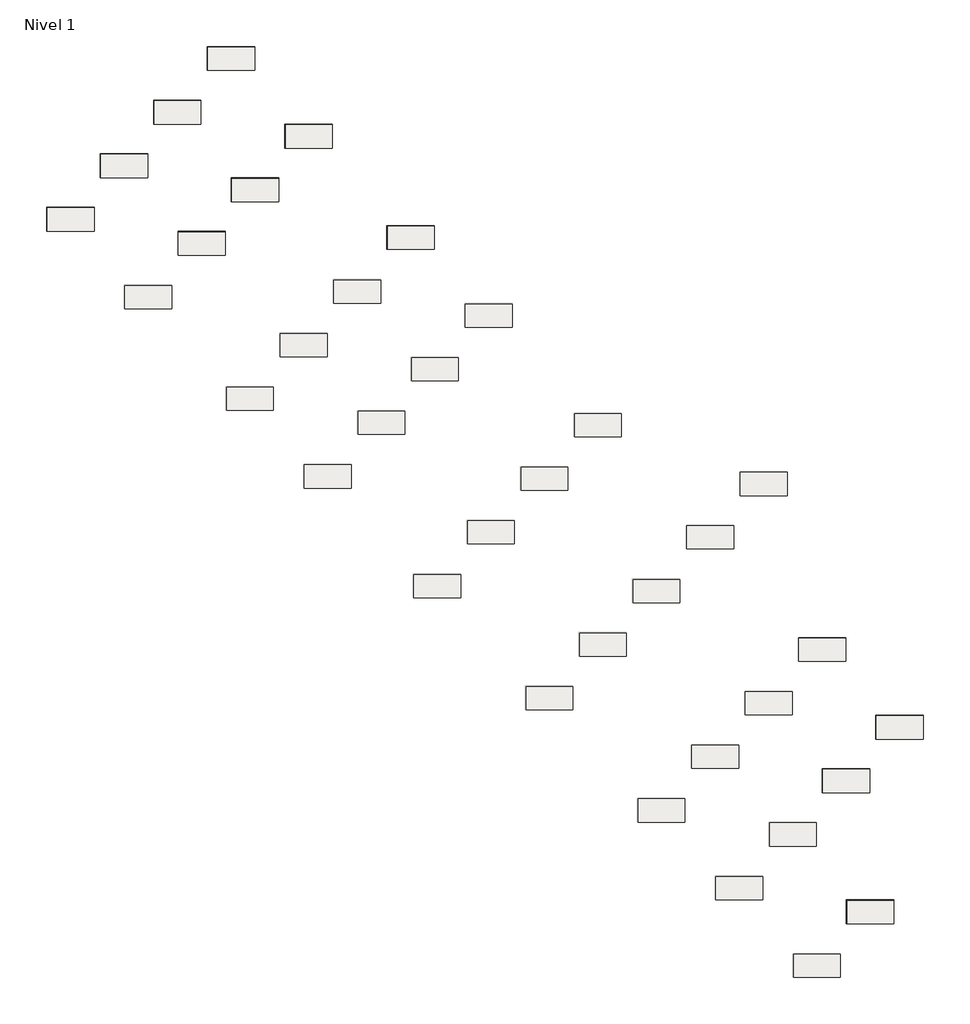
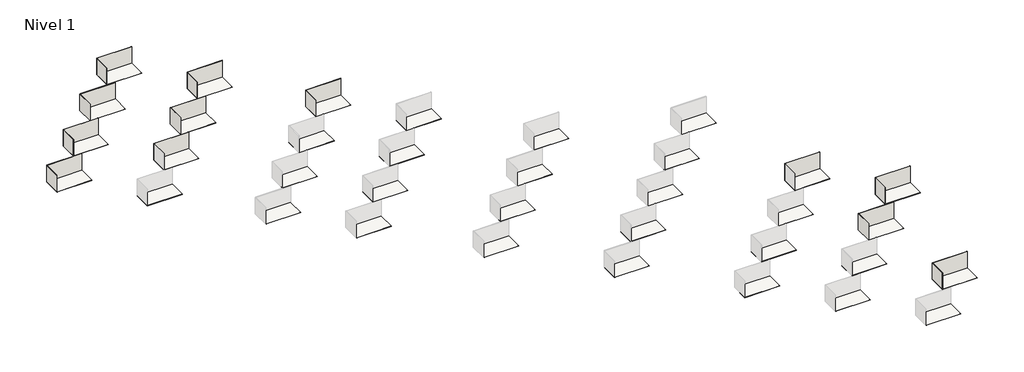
# One storey, part 2 of 2: 35 slabs, 22 walls.
"""IFC4 building model written with IfcOpenShell, lengths in millimetres."""

from ifc_helpers import new_model, si_unit, frame, origin, origin_with_axes, place, context, project, spatial, polyline, outline, extrude, faceted_brep, element, save

model = new_model("IFC4")

# Units and contexts
model_context = context("Model", 3, world=origin())
ifc_project = project(units=[si_unit("LENGTHUNIT", "METRE", prefix="MILLI")], contexts=[model_context])

# Site, building, storey
site = spatial("IfcSite", under=ifc_project)
building = spatial("IfcBuilding", under=site)
storey = spatial("IfcBuildingStorey", under=building, Name="Nivel 1", Elevation=0.0)

# Slabs
placement = place(None, origin())
element("IfcSlab", 1, ObjectType="Pieza 316_Patrón 1/3_Bohème_Brune_Anti-Slip", at=placement, inside=storey, context=model_context, shape_type="SweptSolid", body=[
    extrude(outline(polyline([(3301.8411634, 33415.9230717), (3301.8411634, 32467.9230717), (1405.8411634, 32467.9230717), (1405.8411634, 33415.9230717), (3301.8411634, 33415.9230717)])), frame((0.0, 0.0, -9.0), z_axis=(0.0, 0.0, 1.0), x_axis=(1.0, 0.0, 0.0)), (0.0, 0.0, 1.0), 9.0),
])
element("IfcSlab", 2, ObjectType="Pieza 316_Patrón 1/3_Bohème_Brune_Liso", at=placement, inside=storey, context=model_context, shape_type="SweptSolid", body=[
    extrude(outline(polyline([(6413.1110006, 30304.6532345), (6413.1110006, 29356.6532345), (4517.1110006, 29356.6532345), (4517.1110006, 30304.6532345), (6413.1110006, 30304.6532345)])), frame((0.0, 0.0, -9.0), z_axis=(0.0, 0.0, 1.0), x_axis=(1.0, 0.0, 0.0)), (0.0, 0.0, 1.0), 9.0),
])
element("IfcSlab", 3, ObjectType="Pieza 316_Patrón 1/3_Bohème_Glacé_Anti-Slip", at=placement, inside=storey, context=model_context, shape_type="SweptSolid", body=[
    extrude(outline(polyline([(5443.2267572, 35557.3086656), (5443.2267572, 34609.3086656), (3547.2267572, 34609.3086656), (3547.2267572, 35557.3086656), (5443.2267572, 35557.3086656)])), frame((0.0, 0.0, -9.0), z_axis=(0.0, 0.0, 1.0), x_axis=(1.0, 0.0, 0.0)), (0.0, 0.0, 1.0), 9.0),
])
element("IfcSlab", 4, ObjectType="Pieza 316_Patrón 1/3_Bohème_Glacé_Liso", at=placement, inside=storey, context=model_context, shape_type="SweptSolid", body=[
    extrude(outline(polyline([(8554.4965945, 32446.0388284), (8554.4965945, 31498.0388284), (6658.4965945, 31498.0388284), (6658.4965945, 32446.0388284), (8554.4965945, 32446.0388284)])), frame((0.0, 0.0, -9.0), z_axis=(0.0, 0.0, 1.0), x_axis=(1.0, 0.0, 0.0)), (0.0, 0.0, 1.0), 9.0),
])
element("IfcSlab", 5, ObjectType="Pieza 316_Patrón 1/3_Bohème_Nuit_Anti-Slip", at=placement, inside=storey, context=model_context, shape_type="SweptSolid", body=[
    extrude(outline(polyline([(7584.6123511, 37698.6942594), (7584.6123511, 36750.6942594), (5688.6123511, 36750.6942594), (5688.6123511, 37698.6942594), (7584.6123511, 37698.6942594)])), frame((0.0, 0.0, -9.0), z_axis=(0.0, 0.0, 1.0), x_axis=(1.0, 0.0, 0.0)), (0.0, 0.0, 1.0), 9.0),
])
element("IfcSlab", 6, ObjectType="Pieza 316_Patrón 1/3_Bohème_Nuit_Liso", at=placement, inside=storey, context=model_context, shape_type="SweptSolid", body=[
    extrude(outline(polyline([(10695.8821883, 34587.4244222), (10695.8821883, 33639.4244222), (8799.8821883, 33639.4244222), (8799.8821883, 34587.4244222), (10695.8821883, 34587.4244222)])), frame((0.0, 0.0, -9.0), z_axis=(0.0, 0.0, 1.0), x_axis=(1.0, 0.0, 0.0)), (0.0, 0.0, 1.0), 9.0),
])
element("IfcSlab", 7, ObjectType="Pieza 316_Patrón 1/3_Bohème_Vanille_Anti-Slip", at=placement, inside=storey, context=model_context, shape_type="SweptSolid", body=[
    extrude(outline(polyline([(9734.9979449, 39849.0798533), (9734.9979449, 38901.0798533), (7838.9979449, 38901.0798533), (7838.9979449, 39849.0798533), (9734.9979449, 39849.0798533)])), frame((0.0, 0.0, -9.0), z_axis=(0.0, 0.0, 1.0), x_axis=(1.0, 0.0, 0.0)), (0.0, 0.0, 1.0), 9.0),
])
element("IfcSlab", 8, ObjectType="Pieza 316_Patrón 1/3_Bohème_Vanille_Liso", at=placement, inside=storey, context=model_context, shape_type="SweptSolid", body=[
    extrude(outline(polyline([(12846.2677822, 36737.8100161), (12846.2677822, 35789.8100161), (10950.2677822, 35789.8100161), (10950.2677822, 36737.8100161), (12846.2677822, 36737.8100161)])), frame((0.0, 0.0, -9.0), z_axis=(0.0, 0.0, 1.0), x_axis=(1.0, 0.0, 0.0)), (0.0, 0.0, 1.0), 9.0),
])
element("IfcSlab", 9, ObjectType="Pieza 316_Patrón 1/3_Mistery_Blue Stone_Anti-Slip", at=placement, inside=storey, context=model_context, shape_type="SweptSolid", body=[
    extrude(outline(polyline([(10483.734253, 26236.2582952), (10483.734253, 25288.2582952), (8587.734253, 25288.2582952), (8587.734253, 26236.2582952), (10483.734253, 26236.2582952)])), frame((0.0, 0.0, -9.0), z_axis=(0.0, 0.0, 1.0), x_axis=(1.0, 0.0, 0.0)), (0.0, 0.0, 1.0), 9.0),
])
element("IfcSlab", 10, ObjectType="Pieza 316_Patrón 1/3_Mistery_Blue Stone_Liso", at=placement, inside=storey, context=model_context, shape_type="SweptSolid", body=[
    extrude(outline(polyline([(13595.0040902, 23124.988458), (13595.0040902, 22176.988458), (11699.0040902, 22176.988458), (11699.0040902, 23124.988458), (13595.0040902, 23124.988458)])), frame((0.0, 0.0, -9.0), z_axis=(0.0, 0.0, 1.0), x_axis=(1.0, 0.0, 0.0)), (0.0, 0.0, 1.0), 9.0),
])
element("IfcSlab", 11, ObjectType="Pieza 316_Patrón 1/3_Mistery_Grey_Anti-Slip", at=placement, inside=storey, context=model_context, shape_type="SweptSolid", body=[
    extrude(outline(polyline([(12634.1198468, 28386.643889), (12634.1198468, 27438.643889), (10738.1198468, 27438.643889), (10738.1198468, 28386.643889), (12634.1198468, 28386.643889)])), frame((0.0, 0.0, -9.0), z_axis=(0.0, 0.0, 1.0), x_axis=(1.0, 0.0, 0.0)), (0.0, 0.0, 1.0), 9.0),
])
element("IfcSlab", 12, ObjectType="Pieza 316_Patrón 1/3_Mistery_Grey_Liso", at=placement, inside=storey, context=model_context, shape_type="SweptSolid", body=[
    extrude(outline(polyline([(15745.389684, 25275.3740518), (15745.389684, 24327.3740518), (13849.389684, 24327.3740518), (13849.389684, 25275.3740518), (15745.389684, 25275.3740518)])), frame((0.0, 0.0, -9.0), z_axis=(0.0, 0.0, 1.0), x_axis=(1.0, 0.0, 0.0)), (0.0, 0.0, 1.0), 9.0),
])
element("IfcSlab", 13, ObjectType="Pieza 316_Patrón 1/3_Mistery_Sand_Anti-Slip", at=placement, inside=storey, context=model_context, shape_type="SweptSolid", body=[
    extrude(outline(polyline([(14775.5054407, 30528.0294829), (14775.5054407, 29580.0294829), (12879.5054407, 29580.0294829), (12879.5054407, 30528.0294829), (14775.5054407, 30528.0294829)])), frame((0.0, 0.0, -9.0), z_axis=(0.0, 0.0, 1.0), x_axis=(1.0, 0.0, 0.0)), (0.0, 0.0, 1.0), 9.0),
])
element("IfcSlab", 14, ObjectType="Pieza 316_Patrón 1/3_Mistery_Sand_Liso", at=placement, inside=storey, context=model_context, shape_type="SweptSolid", body=[
    extrude(outline(polyline([(17886.7752779, 27416.7596457), (17886.7752779, 26468.7596457), (15990.7752779, 26468.7596457), (15990.7752779, 27416.7596457), (17886.7752779, 27416.7596457)])), frame((0.0, 0.0, -9.0), z_axis=(0.0, 0.0, 1.0), x_axis=(1.0, 0.0, 0.0)), (0.0, 0.0, 1.0), 9.0),
])
element("IfcSlab", 15, ObjectType="Pieza 316_Patrón 1/3_Mistery_White_Anti-Slip", at=placement, inside=storey, context=model_context, shape_type="SweptSolid", body=[
    extrude(outline(polyline([(16925.8910345, 32678.4150767), (16925.8910345, 31730.4150767), (15029.8910345, 31730.4150767), (15029.8910345, 32678.4150767), (16925.8910345, 32678.4150767)])), frame((0.0, 0.0, -9.0), z_axis=(0.0, 0.0, 1.0), x_axis=(1.0, 0.0, 0.0)), (0.0, 0.0, 1.0), 9.0),
])
element("IfcSlab", 16, ObjectType="Pieza 316_Patrón 1/3_Mistery_White_Liso", at=placement, inside=storey, context=model_context, shape_type="SweptSolid", body=[
    extrude(outline(polyline([(20037.1608717, 29567.1452395), (20037.1608717, 28619.1452395), (18141.1608717, 28619.1452395), (18141.1608717, 29567.1452395), (20037.1608717, 29567.1452395)])), frame((0.0, 0.0, -9.0), z_axis=(0.0, 0.0, 1.0), x_axis=(1.0, 0.0, 0.0)), (0.0, 0.0, 1.0), 9.0),
])
element("IfcSlab", 17, ObjectType="Pieza 316_Patrón 1/3_Pietro_Dark_Anti-Slip", at=placement, inside=storey, context=model_context, shape_type="SweptSolid", body=[
    extrude(outline(polyline([(17980.0203883, 18737.318155), (17980.0203883, 17789.318155), (16084.0203883, 17789.318155), (16084.0203883, 18737.318155), (17980.0203883, 18737.318155)])), frame((0.0, 0.0, -9.0), z_axis=(0.0, 0.0, 1.0), x_axis=(1.0, 0.0, 0.0)), (0.0, 0.0, 1.0), 9.0),
])
element("IfcSlab", 18, ObjectType="Pieza 316_Patrón 1/3_Pietro_Golden_Anti-Slip", at=placement, inside=storey, context=model_context, shape_type="SweptSolid", body=[
    extrude(outline(polyline([(20130.4059821, 20887.7037489), (20130.4059821, 19939.7037489), (18234.4059821, 19939.7037489), (18234.4059821, 20887.7037489), (20130.4059821, 20887.7037489)])), frame((0.0, 0.0, -9.0), z_axis=(0.0, 0.0, 1.0), x_axis=(1.0, 0.0, 0.0)), (0.0, 0.0, 1.0), 9.0),
])
element("IfcSlab", 19, ObjectType="Pieza 316_Patrón 1/3_Pietro_Grey_Anti-Slip", at=placement, inside=storey, context=model_context, shape_type="SweptSolid", body=[
    extrude(outline(polyline([(22271.791576, 23029.0893427), (22271.791576, 22081.0893427), (20375.791576, 22081.0893427), (20375.791576, 23029.0893427), (22271.791576, 23029.0893427)])), frame((0.0, 0.0, -9.0), z_axis=(0.0, 0.0, 1.0), x_axis=(1.0, 0.0, 0.0)), (0.0, 0.0, 1.0), 9.0),
])
element("IfcSlab", 20, ObjectType="Pieza 316_Patrón 1/3_Pietro_White_Anti-Slip", at=placement, inside=storey, context=model_context, shape_type="SweptSolid", body=[
    extrude(outline(polyline([(24413.1771698, 25170.4749366), (24413.1771698, 24222.4749366), (22517.1771698, 24222.4749366), (22517.1771698, 25170.4749366), (24413.1771698, 25170.4749366)])), frame((0.0, 0.0, -9.0), z_axis=(0.0, 0.0, 1.0), x_axis=(1.0, 0.0, 0.0)), (0.0, 0.0, 1.0), 9.0),
])
element("IfcSlab", 21, ObjectType="Pieza 316_Patrón 1/3_Serena_Bianco_Anti-Slip", at=placement, inside=storey, context=model_context, shape_type="SweptSolid", body=[
    extrude(outline(polyline([(22476.791576, 14252.4244222), (22476.791576, 13304.4244222), (20580.791576, 13304.4244222), (20580.791576, 14252.4244222), (22476.791576, 14252.4244222)])), frame((0.0, 0.0, -9.0), z_axis=(0.0, 0.0, 1.0), x_axis=(1.0, 0.0, 0.0)), (0.0, 0.0, 1.0), 9.0),
])
element("IfcSlab", 22, ObjectType="Pieza 316_Patrón 1/3_Serena_Griggio_Anti-Slip", at=placement, inside=storey, context=model_context, shape_type="SweptSolid", body=[
    extrude(outline(polyline([(24618.1771698, 16393.8100161), (24618.1771698, 15445.8100161), (22722.1771698, 15445.8100161), (22722.1771698, 16393.8100161), (24618.1771698, 16393.8100161)])), frame((0.0, 0.0, -9.0), z_axis=(0.0, 0.0, 1.0), x_axis=(1.0, 0.0, 0.0)), (0.0, 0.0, 1.0), 9.0),
])
element("IfcSlab", 23, ObjectType="Pieza 316_Patrón 1/3_Serena_Mix_Anti-Slip", at=placement, inside=storey, context=model_context, shape_type="SweptSolid", body=[
    extrude(outline(polyline([(26759.5627637, 18535.1956099), (26759.5627637, 17587.1956099), (24863.5627637, 17587.1956099), (24863.5627637, 18535.1956099), (26759.5627637, 18535.1956099)])), frame((0.0, 0.0, -9.0), z_axis=(0.0, 0.0, 1.0), x_axis=(1.0, 0.0, 0.0)), (0.0, 0.0, 1.0), 9.0),
])
element("IfcSlab", 24, ObjectType="Pieza 316_Patrón 1/3_Serena_Nero_Anti-Slip", at=placement, inside=storey, context=model_context, shape_type="SweptSolid", body=[
    extrude(outline(polyline([(28909.9483575, 20685.5812037), (28909.9483575, 19737.5812037), (27013.9483575, 19737.5812037), (27013.9483575, 20685.5812037), (28909.9483575, 20685.5812037)])), frame((0.0, 0.0, -9.0), z_axis=(0.0, 0.0, 1.0), x_axis=(1.0, 0.0, 0.0)), (0.0, 0.0, 1.0), 9.0),
])
element("IfcSlab", 25, ObjectType="Pieza 316_Patrón 1/3_Serena_Ocra_Anti-Slip", at=placement, inside=storey, context=model_context, shape_type="SweptSolid", body=[
    extrude(outline(polyline([(31051.3339514, 22826.9667976), (31051.3339514, 21878.9667976), (29155.3339514, 21878.9667976), (29155.3339514, 22826.9667976), (31051.3339514, 22826.9667976)])), frame((0.0, 0.0, -9.0), z_axis=(0.0, 0.0, 1.0), x_axis=(1.0, 0.0, 0.0)), (0.0, 0.0, 1.0), 9.0),
])
element("IfcSlab", 26, ObjectType="Pieza 316_Patrón 1/3_Tao_Beige_Anti-Slip", at=placement, inside=storey, context=model_context, shape_type="SweptSolid", body=[
    extrude(outline(polyline([(26955.9821462, 9754.2339106), (26955.9821462, 8806.2339106), (25059.9821462, 8806.2339106), (25059.9821462, 9754.2339106), (26955.9821462, 9754.2339106)])), frame((0.0, 0.0, -9.0), z_axis=(0.0, 0.0, 1.0), x_axis=(1.0, 0.0, 0.0)), (0.0, 0.0, 1.0), 9.0),
])
element("IfcSlab", 27, ObjectType="Pieza 316_Patrón 1/3_Tao_Beige_Liso", at=placement, inside=storey, context=model_context, shape_type="SweptSolid", body=[
    extrude(outline(polyline([(30067.2519834, 6642.9640733), (30067.2519834, 5694.9640733), (28171.2519834, 5694.9640733), (28171.2519834, 6642.9640733), (30067.2519834, 6642.9640733)])), frame((0.0, 0.0, -9.0), z_axis=(0.0, 0.0, 1.0), x_axis=(1.0, 0.0, 0.0)), (0.0, 0.0, 1.0), 9.0),
])
element("IfcSlab", 28, ObjectType="Pieza 316_Patrón 1/3_Tao_Brown_Anti-Slip", at=placement, inside=storey, context=model_context, shape_type="SweptSolid", body=[
    extrude(outline(polyline([(29106.36774, 11904.6195044), (29106.36774, 10956.6195044), (27210.36774, 10956.6195044), (27210.36774, 11904.6195044), (29106.36774, 11904.6195044)])), frame((0.0, 0.0, -9.0), z_axis=(0.0, 0.0, 1.0), x_axis=(1.0, 0.0, 0.0)), (0.0, 0.0, 1.0), 9.0),
])
element("IfcSlab", 29, ObjectType="Pieza 316_Patrón 1/3_Tao_Brown_Liso", at=placement, inside=storey, context=model_context, shape_type="SweptSolid", body=[
    extrude(outline(polyline([(32217.6375772, 8793.3496672), (32217.6375772, 7845.3496672), (30321.6375772, 7845.3496672), (30321.6375772, 8793.3496672), (32217.6375772, 8793.3496672)])), frame((0.0, 0.0, -9.0), z_axis=(0.0, 0.0, 1.0), x_axis=(1.0, 0.0, 0.0)), (0.0, 0.0, 1.0), 9.0),
])
element("IfcSlab", 30, ObjectType="Pieza 316_Patrón 1/3_Tao_Grey_Anti-Slip", at=placement, inside=storey, context=model_context, shape_type="SweptSolid", body=[
    extrude(outline(polyline([(31247.7533339, 14046.0050983), (31247.7533339, 13098.0050983), (29351.7533339, 13098.0050983), (29351.7533339, 14046.0050983), (31247.7533339, 14046.0050983)])), frame((0.0, 0.0, -9.0), z_axis=(0.0, 0.0, 1.0), x_axis=(1.0, 0.0, 0.0)), (0.0, 0.0, 1.0), 9.0),
])
element("IfcSlab", 31, ObjectType="Pieza 316_Patrón 1/3_Tao_Grey_Liso", at=placement, inside=storey, context=model_context, shape_type="SweptSolid", body=[
    extrude(outline(polyline([(34359.0231711, 10934.735261), (34359.0231711, 9986.735261), (32463.0231711, 9986.735261), (32463.0231711, 10934.735261), (34359.0231711, 10934.735261)])), frame((0.0, 0.0, -9.0), z_axis=(0.0, 0.0, 1.0), x_axis=(1.0, 0.0, 0.0)), (0.0, 0.0, 1.0), 9.0),
])
element("IfcSlab", 32, ObjectType="Pieza 316_Patrón 1/3_Tao_Silver_Anti-Slip", at=placement, inside=storey, context=model_context, shape_type="SweptSolid", body=[
    extrude(outline(polyline([(33389.1389277, 16187.3906921), (33389.1389277, 15239.3906921), (31493.1389277, 15239.3906921), (31493.1389277, 16187.3906921), (33389.1389277, 16187.3906921)])), frame((0.0, 0.0, -9.0), z_axis=(0.0, 0.0, 1.0), x_axis=(1.0, 0.0, 0.0)), (0.0, 0.0, 1.0), 9.0),
])
element("IfcSlab", 33, ObjectType="Pieza 316_Patrón 1/3_Tao_Silver_Liso", at=placement, inside=storey, context=model_context, shape_type="SweptSolid", body=[
    extrude(outline(polyline([(36500.4087649, 13076.1208549), (36500.4087649, 12128.1208549), (34604.4087649, 12128.1208549), (34604.4087649, 13076.1208549), (36500.4087649, 13076.1208549)])), frame((0.0, 0.0, -9.0), z_axis=(0.0, 0.0, 1.0), x_axis=(1.0, 0.0, 0.0)), (0.0, 0.0, 1.0), 9.0),
])
element("IfcSlab", 34, ObjectType="Pieza 316_Patrón 1/3_Tresor_Java_Anti-Slip", at=placement, inside=storey, context=model_context, shape_type="SweptSolid", body=[
    extrude(outline(polyline([(33178.5218206, 3531.6942361), (33178.5218206, 2583.6942361), (31282.5218206, 2583.6942361), (31282.5218206, 3531.6942361), (33178.5218206, 3531.6942361)])), frame((0.0, 0.0, -9.0), z_axis=(0.0, 0.0, 1.0), x_axis=(1.0, 0.0, 0.0)), (0.0, 0.0, 1.0), 9.0),
])
element("IfcSlab", 35, ObjectType="Pieza 316_Patrón 1/3_Tresor_Bali_Anti-Slip", at=placement, inside=storey, context=model_context, shape_type="SweptSolid", body=[
    extrude(outline(polyline([(35328.9074145, 5682.07983), (35328.9074145, 4734.07983), (33432.9074145, 4734.07983), (33432.9074145, 5682.07983), (35328.9074145, 5682.07983)])), frame((0.0, 0.0, -9.0), z_axis=(0.0, 0.0, 1.0), x_axis=(1.0, 0.0, 0.0)), (0.0, 0.0, 1.0), 9.0),
])

# Walls
element("IfcWall", 36, ObjectType="Pieza 316_Patrón 1/3_Bohème_Brune_Anti-Slip", at=placement, inside=storey, context=model_context, shape_type="Brep", body=[
    faceted_brep([(1410.3411634, 32467.9230717, 0.0), (1410.3411634, 33411.4230717, 0.0), (1410.3411634, 33420.4230717, 0.0), (1410.3411634, 33420.4230717, 948.0), (1410.3411634, 33411.4230717, 948.0), (1410.3411634, 32467.9230717, 948.0), (1401.3411634, 32467.9230717, 0.0), (1401.3411634, 32467.9230717, 948.0), (1401.3411634, 33420.4230717, 948.0), (1401.3411634, 33420.4230717, 0.0)], [[[0, 1, 2, 3, 4, 5]], [[6, 7, 8, 9]], [[2, 1, 0, 6, 9]], [[5, 4, 3, 8, 7]], [[0, 5, 7, 6]], [[3, 2, 9, 8]]]),
])
element("IfcWall", 37, ObjectType="Pieza 316_Patrón 1/3_Bohème_Brune_Anti-Slip", at=placement, inside=storey, context=model_context, shape_type="SweptSolid", body=[
    extrude(outline(polyline([(3301.8411634, 33411.4230717), (1410.3411634, 33411.4230717), (1410.3411634, 33420.4230717), (3301.8411634, 33420.4230717), (3301.8411634, 33411.4230717)])), origin_with_axes(), (0.0, 0.0, 1.0), 948.0),
])
element("IfcWall", 38, ObjectType="Pieza 316_Patrón 1/3_Bohème_Glacé_Anti-Slip", at=placement, inside=storey, context=model_context, shape_type="Brep", body=[
    faceted_brep([(3551.7267572, 34609.3086656, 0.0), (3551.7267572, 35552.8086656, 0.0), (3551.7267572, 35561.8086656, 0.0), (3551.7267572, 35561.8086656, 948.0), (3551.7267572, 35552.8086656, 948.0), (3551.7267572, 34609.3086656, 948.0), (3542.7267572, 34609.3086656, 0.0), (3542.7267572, 34609.3086656, 948.0), (3542.7267572, 35561.8086656, 948.0), (3542.7267572, 35561.8086656, 0.0)], [[[0, 1, 2, 3, 4, 5]], [[6, 7, 8, 9]], [[2, 1, 0, 6, 9]], [[5, 4, 3, 8, 7]], [[0, 5, 7, 6]], [[3, 2, 9, 8]]]),
])
element("IfcWall", 39, ObjectType="Pieza 316_Patrón 1/3_Bohème_Glacé_Anti-Slip", at=placement, inside=storey, context=model_context, shape_type="SweptSolid", body=[
    extrude(outline(polyline([(5443.2267572, 35552.8086656), (3551.7267572, 35552.8086656), (3551.7267572, 35561.8086656), (5443.2267572, 35561.8086656), (5443.2267572, 35552.8086656)])), origin_with_axes(), (0.0, 0.0, 1.0), 948.0),
])
element("IfcWall", 40, ObjectType="Pieza 316_Patrón 1/3_Bohème_Glacé_Liso", at=placement, inside=storey, context=model_context, shape_type="SweptSolid", body=[
    extrude(outline(polyline([(8554.4965945, 32441.5388284), (6662.9965945, 32441.5388284), (6662.9965945, 32450.5388284), (8554.4965945, 32450.5388284), (8554.4965945, 32441.5388284)])), origin_with_axes(), (0.0, 0.0, 1.0), 948.0),
])
element("IfcWall", 41, ObjectType="Pieza 316_Patrón 1/3_Bohème_Nuit_Anti-Slip", at=placement, inside=storey, context=model_context, shape_type="Brep", body=[
    faceted_brep([(5693.1123511, 36750.6942594, 0.0), (5693.1123511, 37694.1942594, 0.0), (5693.1123511, 37703.1942594, 0.0), (5693.1123511, 37703.1942594, 948.0), (5693.1123511, 37694.1942594, 948.0), (5693.1123511, 36750.6942594, 948.0), (5684.1123511, 36750.6942594, 0.0), (5684.1123511, 36750.6942594, 948.0), (5684.1123511, 37703.1942594, 948.0), (5684.1123511, 37703.1942594, 0.0)], [[[0, 1, 2, 3, 4, 5]], [[6, 7, 8, 9]], [[2, 1, 0, 6, 9]], [[5, 4, 3, 8, 7]], [[0, 5, 7, 6]], [[3, 2, 9, 8]]]),
])
element("IfcWall", 42, ObjectType="Pieza 316_Patrón 1/3_Bohème_Nuit_Anti-Slip", at=placement, inside=storey, context=model_context, shape_type="SweptSolid", body=[
    extrude(outline(polyline([(7584.6123511, 37694.1942594), (5693.1123511, 37694.1942594), (5693.1123511, 37703.1942594), (7584.6123511, 37703.1942594), (7584.6123511, 37694.1942594)])), origin_with_axes(), (0.0, 0.0, 1.0), 948.0),
])
element("IfcWall", 43, ObjectType="Pieza 316_Patrón 1/3_Bohème_Nuit_Liso", at=placement, inside=storey, context=model_context, shape_type="Brep", body=[
    faceted_brep([(8804.3821883, 33639.4244222, 0.0), (8804.3821883, 34582.9244222, 0.0), (8804.3821883, 34591.9244222, 0.0), (8804.3821883, 34591.9244222, 948.0), (8804.3821883, 34582.9244222, 948.0), (8804.3821883, 33639.4244222, 948.0), (8795.3821883, 33639.4244222, 0.0), (8795.3821883, 33639.4244222, 948.0), (8795.3821883, 34591.9244222, 948.0), (8795.3821883, 34591.9244222, 0.0)], [[[0, 1, 2, 3, 4, 5]], [[6, 7, 8, 9]], [[2, 1, 0, 6, 9]], [[5, 4, 3, 8, 7]], [[0, 5, 7, 6]], [[3, 2, 9, 8]]]),
])
element("IfcWall", 44, ObjectType="Pieza 316_Patrón 1/3_Bohème_Nuit_Liso", at=placement, inside=storey, context=model_context, shape_type="SweptSolid", body=[
    extrude(outline(polyline([(10695.8821883, 34582.9244222), (8804.3821883, 34582.9244222), (8804.3821883, 34591.9244222), (10695.8821883, 34591.9244222), (10695.8821883, 34582.9244222)])), origin_with_axes(), (0.0, 0.0, 1.0), 948.0),
])
element("IfcWall", 45, ObjectType="Pieza 316_Patrón 1/3_Bohème_Vanille_Anti-Slip", at=placement, inside=storey, context=model_context, shape_type="Brep", body=[
    faceted_brep([(7843.4979449, 38901.0798533, 0.0), (7843.4979449, 39844.5798533, 0.0), (7843.4979449, 39853.5798533, 0.0), (7843.4979449, 39853.5798533, 948.0), (7843.4979449, 39844.5798533, 948.0), (7843.4979449, 38901.0798533, 948.0), (7834.4979449, 38901.0798533, 0.0), (7834.4979449, 38901.0798533, 948.0), (7834.4979449, 39853.5798533, 948.0), (7834.4979449, 39853.5798533, 0.0)], [[[0, 1, 2, 3, 4, 5]], [[6, 7, 8, 9]], [[2, 1, 0, 6, 9]], [[5, 4, 3, 8, 7]], [[0, 5, 7, 6]], [[3, 2, 9, 8]]]),
])
element("IfcWall", 46, ObjectType="Pieza 316_Patrón 1/3_Bohème_Vanille_Anti-Slip", at=placement, inside=storey, context=model_context, shape_type="SweptSolid", body=[
    extrude(outline(polyline([(9734.9979449, 39844.5798533), (7843.4979449, 39844.5798533), (7843.4979449, 39853.5798533), (9734.9979449, 39853.5798533), (9734.9979449, 39844.5798533)])), origin_with_axes(), (0.0, 0.0, 1.0), 948.0),
])
element("IfcWall", 47, ObjectType="Pieza 316_Patrón 1/3_Bohème_Vanille_Liso", at=placement, inside=storey, context=model_context, shape_type="Brep", body=[
    faceted_brep([(10954.7677822, 35789.8100161, 0.0), (10954.7677822, 36733.3100161, 0.0), (10954.7677822, 36742.3100161, 0.0), (10954.7677822, 36742.3100161, 948.0), (10954.7677822, 36733.3100161, 948.0), (10954.7677822, 35789.8100161, 948.0), (10945.7677822, 35789.8100161, 0.0), (10945.7677822, 35789.8100161, 948.0), (10945.7677822, 36742.3100161, 948.0), (10945.7677822, 36742.3100161, 0.0)], [[[0, 1, 2, 3, 4, 5]], [[6, 7, 8, 9]], [[2, 1, 0, 6, 9]], [[5, 4, 3, 8, 7]], [[0, 5, 7, 6]], [[3, 2, 9, 8]]]),
])
element("IfcWall", 48, ObjectType="Pieza 316_Patrón 1/3_Bohème_Vanille_Liso", at=placement, inside=storey, context=model_context, shape_type="SweptSolid", body=[
    extrude(outline(polyline([(12846.2677822, 36733.3100161), (10954.7677822, 36733.3100161), (10954.7677822, 36742.3100161), (12846.2677822, 36742.3100161), (12846.2677822, 36733.3100161)])), origin_with_axes(), (0.0, 0.0, 1.0), 948.0),
])
element("IfcWall", 49, ObjectType="Pieza 316_Patrón 1/3_Mistery_White_Anti-Slip", at=placement, inside=storey, context=model_context, shape_type="Brep", body=[
    faceted_brep([(15034.3910345, 31730.4150767, 0.0), (15034.3910345, 32673.9150767, 0.0), (15034.3910345, 32682.9150767, 0.0), (15034.3910345, 32682.9150767, 948.0), (15034.3910345, 32673.9150767, 948.0), (15034.3910345, 31730.4150767, 948.0), (15025.3910345, 31730.4150767, 0.0), (15025.3910345, 31730.4150767, 948.0), (15025.3910345, 32682.9150767, 948.0), (15025.3910345, 32682.9150767, 0.0)], [[[0, 1, 2, 3, 4, 5]], [[6, 7, 8, 9]], [[2, 1, 0, 6, 9]], [[5, 4, 3, 8, 7]], [[0, 5, 7, 6]], [[3, 2, 9, 8]]]),
])
element("IfcWall", 50, ObjectType="Pieza 316_Patrón 1/3_Mistery_White_Anti-Slip", at=placement, inside=storey, context=model_context, shape_type="SweptSolid", body=[
    extrude(outline(polyline([(16925.8910345, 32673.9150767), (15034.3910345, 32673.9150767), (15034.3910345, 32682.9150767), (16925.8910345, 32682.9150767), (16925.8910345, 32673.9150767)])), origin_with_axes(), (0.0, 0.0, 1.0), 948.0),
])
element("IfcWall", 51, ObjectType="Pieza 316_Patrón 1/3_Tao_Grey_Liso", at=placement, inside=storey, context=model_context, shape_type="Brep", body=[
    faceted_brep([(32467.5231711, 9986.735261, 0.0), (32467.5231711, 10930.235261, 0.0), (32467.5231711, 10939.235261, 0.0), (32467.5231711, 10939.235261, 948.0), (32467.5231711, 10930.235261, 948.0), (32467.5231711, 9986.735261, 948.0), (32458.5231711, 9986.735261, 0.0), (32458.5231711, 9986.735261, 948.0), (32458.5231711, 10939.235261, 948.0), (32458.5231711, 10939.235261, 0.0)], [[[0, 1, 2, 3, 4, 5]], [[6, 7, 8, 9]], [[2, 1, 0, 6, 9]], [[5, 4, 3, 8, 7]], [[0, 5, 7, 6]], [[3, 2, 9, 8]]]),
])
element("IfcWall", 52, ObjectType="Pieza 316_Patrón 1/3_Tao_Grey_Liso", at=placement, inside=storey, context=model_context, shape_type="SweptSolid", body=[
    extrude(outline(polyline([(34359.0231711, 10930.235261), (32467.5231711, 10930.235261), (32467.5231711, 10939.235261), (34359.0231711, 10939.235261), (34359.0231711, 10930.235261)])), origin_with_axes(), (0.0, 0.0, 1.0), 948.0),
])
element("IfcWall", 53, ObjectType="Pieza 316_Patrón 1/3_Tao_Silver_Anti-Slip", at=placement, inside=storey, context=model_context, shape_type="SweptSolid", body=[
    extrude(outline(polyline([(33389.1389277, 16182.8906921), (31497.6389277, 16182.8906921), (31497.6389277, 16191.8906921), (33389.1389277, 16191.8906921), (33389.1389277, 16182.8906921)])), origin_with_axes(), (0.0, 0.0, 1.0), 948.0),
])
element("IfcWall", 54, ObjectType="Pieza 316_Patrón 1/3_Tao_Silver_Liso", at=placement, inside=storey, context=model_context, shape_type="Brep", body=[
    faceted_brep([(34608.9087649, 12128.1208549, 0.0), (34608.9087649, 13071.6208549, 0.0), (34608.9087649, 13080.6208549, 0.0), (34608.9087649, 13080.6208549, 948.0), (34608.9087649, 13071.6208549, 948.0), (34608.9087649, 12128.1208549, 948.0), (34599.9087649, 12128.1208549, 0.0), (34599.9087649, 12128.1208549, 948.0), (34599.9087649, 13080.6208549, 948.0), (34599.9087649, 13080.6208549, 0.0)], [[[0, 1, 2, 3, 4, 5]], [[6, 7, 8, 9]], [[2, 1, 0, 6, 9]], [[5, 4, 3, 8, 7]], [[0, 5, 7, 6]], [[3, 2, 9, 8]]]),
])
element("IfcWall", 55, ObjectType="Pieza 316_Patrón 1/3_Tao_Silver_Liso", at=placement, inside=storey, context=model_context, shape_type="SweptSolid", body=[
    extrude(outline(polyline([(36500.4087649, 13071.6208549), (34608.9087649, 13071.6208549), (34608.9087649, 13080.6208549), (36500.4087649, 13080.6208549), (36500.4087649, 13071.6208549)])), origin_with_axes(), (0.0, 0.0, 1.0), 948.0),
])
element("IfcWall", 56, ObjectType="Pieza 316_Patrón 1/3_Tresor_Bali_Anti-Slip", at=placement, inside=storey, context=model_context, shape_type="Brep", body=[
    faceted_brep([(33437.4074145, 4734.07983, 0.0), (33437.4074145, 5677.57983, 0.0), (33437.4074145, 5686.57983, 0.0), (33437.4074145, 5686.57983, 948.0), (33437.4074145, 5677.57983, 948.0), (33437.4074145, 4734.07983, 948.0), (33428.4074145, 4734.07983, 0.0), (33428.4074145, 4734.07983, 948.0), (33428.4074145, 5686.57983, 948.0), (33428.4074145, 5686.57983, 0.0)], [[[0, 1, 2, 3, 4, 5]], [[6, 7, 8, 9]], [[2, 1, 0, 6, 9]], [[5, 4, 3, 8, 7]], [[0, 5, 7, 6]], [[3, 2, 9, 8]]]),
])
element("IfcWall", 57, ObjectType="Pieza 316_Patrón 1/3_Tresor_Bali_Anti-Slip", at=placement, inside=storey, context=model_context, shape_type="SweptSolid", body=[
    extrude(outline(polyline([(35328.9074145, 5677.57983), (33437.4074145, 5677.57983), (33437.4074145, 5686.57983), (35328.9074145, 5686.57983), (35328.9074145, 5677.57983)])), origin_with_axes(), (0.0, 0.0, 1.0), 948.0),
])

save(model, "model.ifc")
